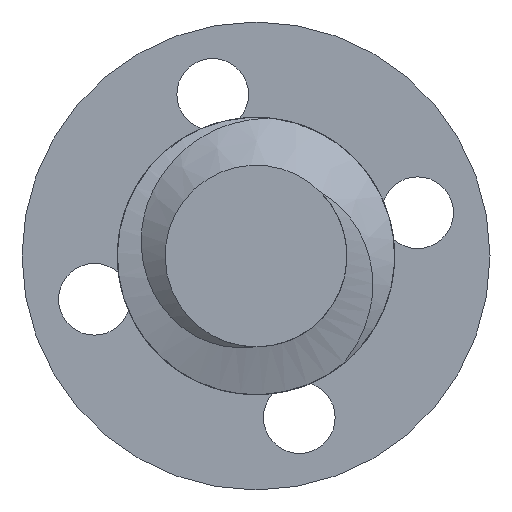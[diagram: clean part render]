
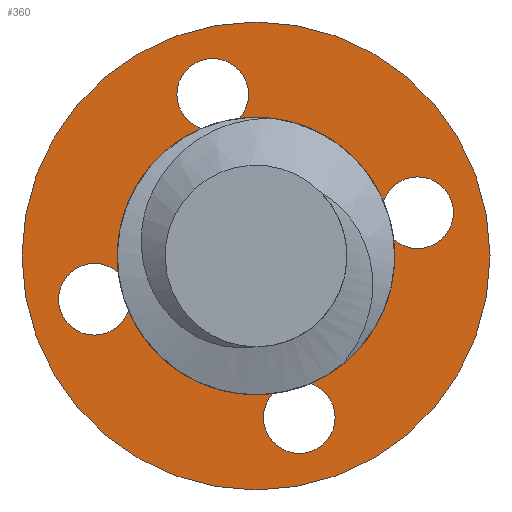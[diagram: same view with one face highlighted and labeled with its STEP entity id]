
A CAD part, front view. The second image highlights one B-rep face of the part: STEP entity #360.
In plain terms, the highlighted planar face has unit normal (0, -1, 0).
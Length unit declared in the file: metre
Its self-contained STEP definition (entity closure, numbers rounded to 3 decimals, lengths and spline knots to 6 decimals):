
#25=LINE('',#554,#45);
#26=LINE('',#557,#46);
#27=LINE('',#559,#47);
#28=LINE('',#561,#48);
#29=LINE('',#563,#49);
#30=LINE('',#565,#50);
#45=VECTOR('',#463,1.);
#46=VECTOR('',#464,1.);
#47=VECTOR('',#465,1.);
#48=VECTOR('',#466,1.);
#49=VECTOR('',#467,1.);
#50=VECTOR('',#468,1.);
#65=PLANE('',#406);
#87=ORIENTED_EDGE('',*,*,#181,.T.);
#88=ORIENTED_EDGE('',*,*,#182,.T.);
#89=ORIENTED_EDGE('',*,*,#183,.T.);
#90=ORIENTED_EDGE('',*,*,#184,.T.);
#91=ORIENTED_EDGE('',*,*,#185,.T.);
#92=ORIENTED_EDGE('',*,*,#186,.T.);
#93=ORIENTED_EDGE('',*,*,#179,.T.);
#94=ORIENTED_EDGE('',*,*,#173,.T.);
#95=ORIENTED_EDGE('',*,*,#177,.T.);
#96=ORIENTED_EDGE('',*,*,#171,.F.);
#97=ORIENTED_EDGE('',*,*,#175,.T.);
#171=EDGE_CURVE('',#218,#218,#252,.T.);
#173=EDGE_CURVE('',#220,#220,#254,.T.);
#175=EDGE_CURVE('',#222,#222,#256,.T.);
#177=EDGE_CURVE('',#224,#224,#258,.T.);
#179=EDGE_CURVE('',#226,#226,#260,.T.);
#181=EDGE_CURVE('',#228,#229,#25,.T.);
#182=EDGE_CURVE('',#229,#230,#26,.T.);
#183=EDGE_CURVE('',#230,#231,#27,.T.);
#184=EDGE_CURVE('',#231,#232,#28,.T.);
#185=EDGE_CURVE('',#232,#233,#29,.T.);
#186=EDGE_CURVE('',#233,#228,#30,.T.);
#218=VERTEX_POINT('',#530);
#220=VERTEX_POINT('',#535);
#222=VERTEX_POINT('',#540);
#224=VERTEX_POINT('',#545);
#226=VERTEX_POINT('',#550);
#228=VERTEX_POINT('',#555);
#229=VERTEX_POINT('',#556);
#230=VERTEX_POINT('',#558);
#231=VERTEX_POINT('',#560);
#232=VERTEX_POINT('',#562);
#233=VERTEX_POINT('',#564);
#252=CIRCLE('',#392,0.009789);
#254=CIRCLE('',#395,0.0015);
#256=CIRCLE('',#398,0.0015);
#258=CIRCLE('',#401,0.0015);
#260=CIRCLE('',#404,0.0015);
#279=EDGE_LOOP('',(#87,#88,#89,#90,#91,#92));
#280=EDGE_LOOP('',(#93));
#281=EDGE_LOOP('',(#94));
#282=EDGE_LOOP('',(#95));
#283=EDGE_LOOP('',(#96));
#284=EDGE_LOOP('',(#97));
#318=FACE_BOUND('',#279,.T.);
#319=FACE_BOUND('',#280,.T.);
#320=FACE_BOUND('',#281,.T.);
#321=FACE_BOUND('',#282,.T.);
#322=FACE_BOUND('',#283,.T.);
#323=FACE_BOUND('',#284,.T.);
#360=ADVANCED_FACE('',(#318,#319,#320,#321,#322,#323),#65,.F.);
#392=AXIS2_PLACEMENT_3D('',#529,#433,#434);
#395=AXIS2_PLACEMENT_3D('',#534,#439,#440);
#398=AXIS2_PLACEMENT_3D('',#539,#445,#446);
#401=AXIS2_PLACEMENT_3D('',#544,#451,#452);
#404=AXIS2_PLACEMENT_3D('',#549,#457,#458);
#406=AXIS2_PLACEMENT_3D('',#553,#461,#462);
#433=DIRECTION('',(0.,1.,0.));
#434=DIRECTION('',(0.,0.,1.));
#439=DIRECTION('',(0.,1.,0.));
#440=DIRECTION('',(0.,0.,1.));
#445=DIRECTION('',(0.,1.,0.));
#446=DIRECTION('',(0.,0.,1.));
#451=DIRECTION('',(0.,1.,0.));
#452=DIRECTION('',(0.,0.,1.));
#457=DIRECTION('',(0.,1.,0.));
#458=DIRECTION('',(0.,0.,1.));
#461=DIRECTION('',(0.,1.,0.));
#462=DIRECTION('',(-0.259,0.,0.966));
#463=DIRECTION('',(0.5,0.,0.866));
#464=DIRECTION('',(1.,0.,0.));
#465=DIRECTION('',(0.5,0.,-0.866));
#466=DIRECTION('',(-0.5,0.,-0.866));
#467=DIRECTION('',(-1.,0.,0.));
#468=DIRECTION('',(-0.5,0.,0.866));
#529=CARTESIAN_POINT('',(-0.007207,0.0251,0.007066));
#530=CARTESIAN_POINT('',(-0.007207,0.0251,0.016855));
#534=CARTESIAN_POINT('',(-0.009019,0.0251,0.013828));
#535=CARTESIAN_POINT('',(-0.009019,0.0251,0.015328));
#539=CARTESIAN_POINT('',(-0.005395,0.0251,0.000305));
#540=CARTESIAN_POINT('',(-0.005395,0.0251,0.001805));
#544=CARTESIAN_POINT('',(-0.000445,0.0251,0.008878));
#545=CARTESIAN_POINT('',(-0.000445,0.0251,0.010378));
#549=CARTESIAN_POINT('',(-0.013968,0.0251,0.005255));
#550=CARTESIAN_POINT('',(-0.013968,0.0251,0.006755));
#553=CARTESIAN_POINT('',(-0.007207,0.0251,0.007066));
#554=CARTESIAN_POINT('',(-0.011277,0.0251,0.009416));
#555=CARTESIAN_POINT('',(-0.012634,0.0251,0.007066));
#556=CARTESIAN_POINT('',(-0.00992,0.0251,0.011766));
#557=CARTESIAN_POINT('',(-0.007207,0.0251,0.011766));
#558=CARTESIAN_POINT('',(-0.004493,0.0251,0.011766));
#559=CARTESIAN_POINT('',(-0.003136,0.0251,0.009416));
#560=CARTESIAN_POINT('',(-0.00178,0.0251,0.007066));
#561=CARTESIAN_POINT('',(-0.003136,0.0251,0.004716));
#562=CARTESIAN_POINT('',(-0.004493,0.0251,0.002366));
#563=CARTESIAN_POINT('',(-0.007207,0.0251,0.002366));
#564=CARTESIAN_POINT('',(-0.00992,0.0251,0.002366));
#565=CARTESIAN_POINT('',(-0.011277,0.0251,0.004716));
